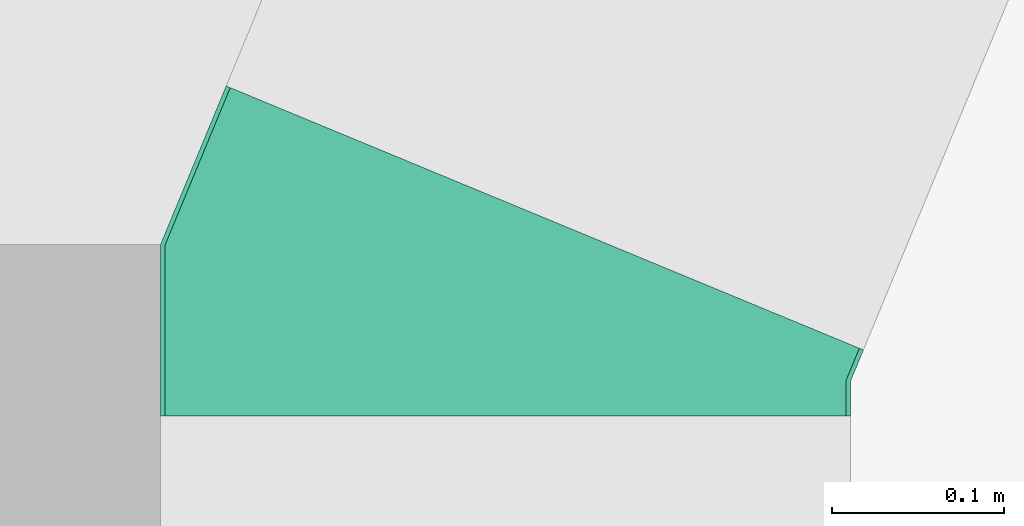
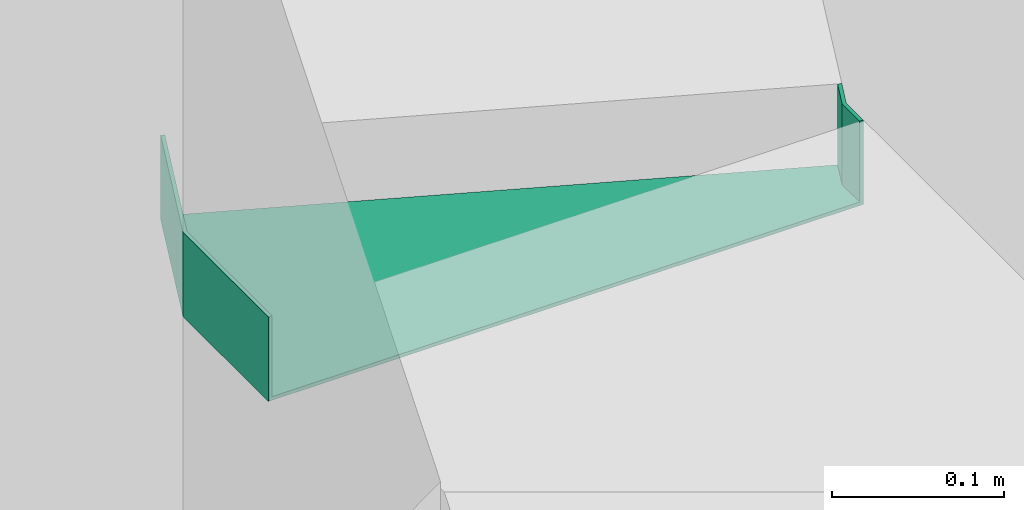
# One storey, part 268 of 302: 1 flow fitting.
"""IFC2X3 building model written with IfcOpenShell, lengths in metres."""

from ifc_helpers import new_model, entity, si_unit, converted_unit, derived_unit, direction, frame, origin, place, context, subcontext, project, spatial, faceted_brep, source, transform, mapped, material, type_object, type_shapes, element, save


model = new_model("IFC2X3")

# Units and contexts
model_context = context("Model", 3, precision=1e-05, world=origin(), true_north=direction((6.12303176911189e-17, 1.0)))
body_context = subcontext(model_context, "Body", "Model", "MODEL_VIEW")
ifc_project = project(units=[si_unit("LENGTHUNIT", "METRE"), si_unit("AREAUNIT", "SQUARE_METRE"), si_unit("VOLUMEUNIT", "CUBIC_METRE"), converted_unit("PLANEANGLEUNIT", "DEGREE", entity("IfcRatioMeasure", 0.0174532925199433), si_unit("PLANEANGLEUNIT", "RADIAN"), dimensions=[0, 0, 0, 0, 0, 0, 0]), si_unit("MASSUNIT", "GRAM", prefix="KILO"), derived_unit("MASSDENSITYUNIT", [(si_unit("MASSUNIT", "GRAM", prefix="KILO"), 1), (si_unit("LENGTHUNIT", "METRE"), -3)]), derived_unit("MOMENTOFINERTIAUNIT", [(si_unit("LENGTHUNIT", "METRE"), 4)]), si_unit("TIMEUNIT", "SECOND"), si_unit("FREQUENCYUNIT", "HERTZ"), si_unit("THERMODYNAMICTEMPERATUREUNIT", "DEGREE_CELSIUS"), derived_unit("THERMALTRANSMITTANCEUNIT", [(si_unit("MASSUNIT", "GRAM", prefix="KILO"), 1), (si_unit("THERMODYNAMICTEMPERATUREUNIT", "KELVIN"), -1), (si_unit("TIMEUNIT", "SECOND"), -3)]), derived_unit("VOLUMETRICFLOWRATEUNIT", [(si_unit("LENGTHUNIT", "METRE"), 3), (si_unit("TIMEUNIT", "SECOND"), -1)]), si_unit("ELECTRICCURRENTUNIT", "AMPERE"), si_unit("ELECTRICVOLTAGEUNIT", "VOLT"), si_unit("POWERUNIT", "WATT"), si_unit("FORCEUNIT", "NEWTON", prefix="KILO"), si_unit("ILLUMINANCEUNIT", "LUX"), si_unit("LUMINOUSFLUXUNIT", "LUMEN"), si_unit("LUMINOUSINTENSITYUNIT", "CANDELA"), derived_unit("USERDEFINED", [(si_unit("MASSUNIT", "GRAM", prefix="KILO"), -1), (si_unit("LENGTHUNIT", "METRE"), -2), (si_unit("TIMEUNIT", "SECOND"), 3), (si_unit("LUMINOUSFLUXUNIT", "LUMEN"), 1)]), derived_unit("LINEARVELOCITYUNIT", [(si_unit("LENGTHUNIT", "METRE"), 1), (si_unit("TIMEUNIT", "SECOND"), -1)]), si_unit("PRESSUREUNIT", "PASCAL"), derived_unit("USERDEFINED", [(si_unit("LENGTHUNIT", "METRE"), -2), (si_unit("MASSUNIT", "GRAM", prefix="KILO"), 1), (si_unit("TIMEUNIT", "SECOND"), -2)]), derived_unit("LINEARFORCEUNIT", [(si_unit("MASSUNIT", "GRAM", prefix="KILO"), 1), (si_unit("LENGTHUNIT", "METRE"), 1), (si_unit("TIMEUNIT", "SECOND"), -2), (si_unit("LENGTHUNIT", "METRE"), -1)]), derived_unit("PLANARFORCEUNIT", [(si_unit("MASSUNIT", "GRAM", prefix="KILO"), 1), (si_unit("LENGTHUNIT", "METRE"), 1), (si_unit("TIMEUNIT", "SECOND"), -2), (si_unit("LENGTHUNIT", "METRE"), -2)])], contexts=[model_context])

# Site, building, storey
site_placement = place(None, origin())
site = spatial("IfcSite", under=ifc_project, at=site_placement, Name="Default", CompositionType="ELEMENT")
building_placement = place(site_placement, origin())
building = spatial("IfcBuilding", under=site, at=building_placement, CompositionType="ELEMENT")
storey_placement = place(building_placement, frame((0.0, 0.0, -1.3)))
storey = spatial("IfcBuildingStorey", under=building, at=storey_placement, Name="00_EG", CompositionType="ELEMENT", Elevation=-1.3)

# Flow fitting
ifc_material = material(Name="<Unnamed>")
cable_carrier_fitting_type = type_object("IfcCableCarrierFittingType", Name="Kabeltrasse - Bogen (Ecke) reduzierend:Standard", PredefinedType="NOTDEFINED", material=ifc_material)
shared_shape = source(origin(), body_context, "Body", "Brep", [
    faceted_brep([(-0.059673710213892, -0.200000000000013, -0.0300000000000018), (-0.059673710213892, -0.200000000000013, 0.0299999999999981), (-0.059673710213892, -0.197460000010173, 0.0299999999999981), (-0.059673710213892, -0.197460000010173, -0.0274600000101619), (-0.0596737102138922, 0.197460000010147, -0.0274600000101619), (-0.0596737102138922, 0.197460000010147, 0.0299999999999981), (-0.0596737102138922, 0.199999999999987, 0.0299999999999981), (-0.0596737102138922, 0.199999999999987, -0.0300000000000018), (0.131668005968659, -0.161939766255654, -0.0300000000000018), (-0.0214053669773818, 0.207612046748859, -0.0300000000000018), (-0.0214053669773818, 0.207612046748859, 0.0299999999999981), (-0.0204333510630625, 0.205265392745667, 0.0299999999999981), (-0.0204333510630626, 0.205265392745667, -0.0274600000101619), (0.130695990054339, -0.159593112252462, -0.0274600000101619), (0.130695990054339, -0.159593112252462, 0.0299999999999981), (0.131668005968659, -0.161939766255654, 0.0299999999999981), (0.0397824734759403, -0.200000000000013, -0.0300000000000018), (0.0397824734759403, -0.200000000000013, 0.0299999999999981), (0.0392772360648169, -0.197460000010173, 0.0299999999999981), (0.0392772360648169, -0.197460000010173, -0.0274600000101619), (-0.0392772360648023, 0.197460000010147, -0.0274600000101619), (-0.0392772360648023, 0.197460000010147, 0.0299999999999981), (-0.0397824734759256, 0.199999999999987, 0.0299999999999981), (-0.0397824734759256, 0.199999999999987, -0.0300000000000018)], [[[0, 1, 2, 3, 4, 5, 6, 7]], [[8, 9, 10, 11, 12, 13, 14, 15]], [[1, 0, 16, 17]], [[2, 1, 17, 15, 14, 18]], [[3, 2, 18, 19]], [[4, 3, 19, 13, 12, 20]], [[5, 4, 20, 21]], [[6, 5, 21, 11, 10, 22]], [[7, 6, 22, 23]], [[0, 7, 23, 9, 8, 16]], [[17, 16, 8, 15]], [[19, 18, 14, 13]], [[21, 20, 12, 11]], [[23, 22, 10, 9]]]),
])
type_shapes(cable_carrier_fitting_type, [shared_shape])
flow_fitting_placement = place(storey_placement, frame((-266.160111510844, 42.6143086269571, 4.85), z_axis=(0.0, 0.0, 1.0), x_axis=(-0.382683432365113, -0.923879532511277, 0.0)))
element("IfcFlowFitting", 1, at=flow_fitting_placement, inside=storey, type_object=cable_carrier_fitting_type, material=ifc_material, Name="Kabeltrasse - Bogen (Ecke) reduzierend:Standard", ObjectType="Kabeltrasse - Bogen (Ecke) reduzierend:Standard", context=body_context, shape_type="MappedRepresentation", body=[
    mapped(shared_shape, transform((0.0, 0.0, 0.0), scale=1.0)),
])

save(model, "model.ifc")
